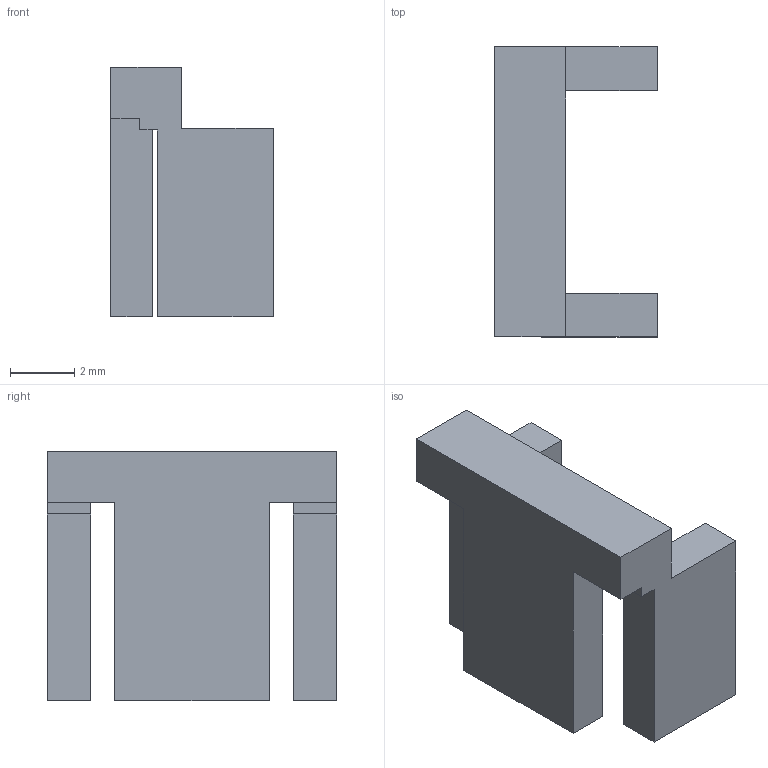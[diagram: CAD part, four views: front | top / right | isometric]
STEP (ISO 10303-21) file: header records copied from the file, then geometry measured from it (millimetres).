
FILE_DESCRIPTION(/* description */ (''),/* implementation_level */ '2;1');
FILE_NAME(/* name */ 'P10.step',/* time_stamp */ '2026-09-15T15:15:06-07:00',/* author */ (''),/* organization */ (''),/* preprocessor_version */ 'ST-DEVELOPER v20.1',/* originating_system */ 'Autodesk Translation Framework v15.8.0.0',/* authorisation */ '');
FILE_SCHEMA (('AUTOMOTIVE_DESIGN { 1 0 10303 214 3 1 1 }'));
Length unit declared in the file: millimetre
Products named in the file (1): 2026-09-15-15-15-06-385
Bounding box: 5.05 x 9 x 7.75 mm (x, y, z)
Volume: 128 mm3; surface area: 285 mm2
Topology: 1 solids, 1 shells, 24 faces, 66 edges, 44 vertices
Faces by surface type: plane 24
Entity records: 783 total; most frequent: CARTESIAN_POINT 135, ORIENTED_EDGE 132, DIRECTION 116, LINE 66, VECTOR 66, EDGE_CURVE 66, VERTEX_POINT 44, AXIS2_PLACEMENT_3D 25
